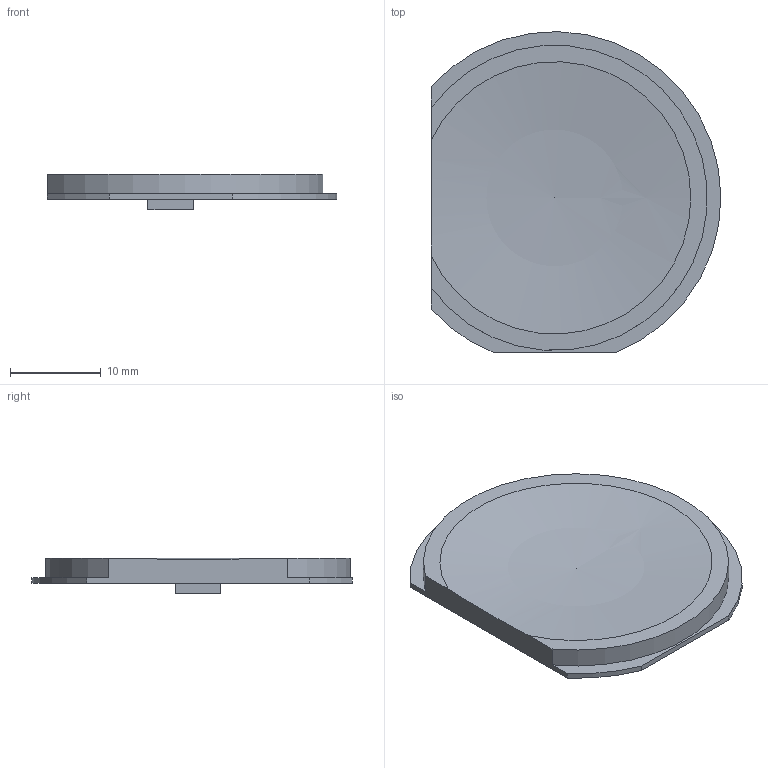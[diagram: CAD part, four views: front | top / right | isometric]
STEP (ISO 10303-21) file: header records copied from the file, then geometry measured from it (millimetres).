
FILE_DESCRIPTION(('Open CASCADE Model'),'2;1');
FILE_NAME('Open CASCADE Shape Model','2026-09-04T20:18:28',('Author'),( 'Open CASCADE'),'Open CASCADE STEP processor 7.7','Open CASCADE 7.7' ,'Unknown');
FILE_SCHEMA(('AUTOMOTIVE_DESIGN { 1 0 10303 214 1 1 1 1 }'));
Length unit declared in the file: millimetre
Products named in the file (1): Open CASCADE STEP translator 7.7 18
Bounding box: 31.9 x 35.3 x 3.9 mm (x, y, z)
Volume: 2102.5 mm3; surface area: 2238.2 mm2
Topology: 1 solids, 1 shells, 14 faces, 36 edges, 24 vertices
Faces by surface type: plane 10, cylinder 3, sphere 1
Entity records: 921 total; most frequent: CARTESIAN_POINT 195, DIRECTION 138, LINE 85, VECTOR 85, ORIENTED_EDGE 70, PCURVE 70, DEFINITIONAL_REPRESENTATION 70, EDGE_CURVE 35
